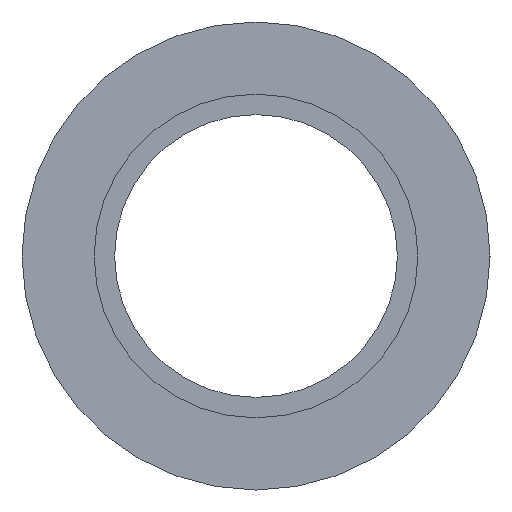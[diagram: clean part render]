
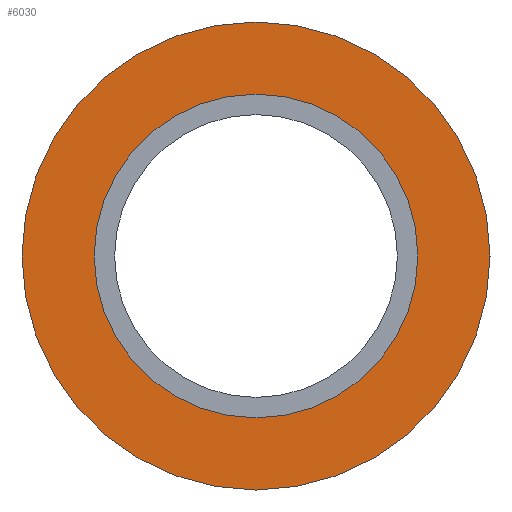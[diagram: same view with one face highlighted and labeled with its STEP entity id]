
A CAD part, left-side view. The second image highlights one B-rep face of the part: STEP entity #6030.
In plain terms, the highlighted planar face has unit normal (-1, 0, 0).
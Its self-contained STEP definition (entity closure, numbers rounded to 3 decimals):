
#5550=CARTESIAN_POINT('',(35.068,57.857,0.));
#5560=VERTEX_POINT('',#5550);
#5590=CARTESIAN_POINT('',(35.068,46.757,0.));
#5600=DIRECTION('',(-1.,0.,0.));
#5610=DIRECTION('',(0.,-1.,0.));
#5620=AXIS2_PLACEMENT_3D('',#5590,#5600,#5610);
#5630=CIRCLE('',#5620,11.1);
#5640=CARTESIAN_POINT('',(35.068,35.657,0.));
#5650=VERTEX_POINT('',#5640);
#5660=EDGE_CURVE('',#5650,#5560,#5630,.T.);
#5780=CARTESIAN_POINT('',(35.068,32.257,0.));
#5790=DIRECTION('',(-1.,0.,0.));
#5800=DIRECTION('',(0.,-1.,0.));
#5810=AXIS2_PLACEMENT_3D('',#5780,#5790,#5800);
#5820=PLANE('',#5810);
#5830=ORIENTED_EDGE('',*,*,#5660,.F.);
#5840=EDGE_CURVE('',#5560,#5650,#5630,.T.);
#5850=ORIENTED_EDGE('',*,*,#5840,.F.);
#5860=EDGE_LOOP('',(#5850,#5830));
#5870=FACE_BOUND('',#5860,.T.);
#5880=CARTESIAN_POINT('',(35.068,46.757,0.));
#5890=DIRECTION('',(-1.,0.,0.));
#5900=DIRECTION('',(0.,-1.,0.));
#5910=AXIS2_PLACEMENT_3D('',#5880,#5890,#5900);
#5920=CIRCLE('',#5910,16.05);
#5930=CARTESIAN_POINT('',(35.068,30.707,0.));
#5940=VERTEX_POINT('',#5930);
#5950=CARTESIAN_POINT('',(35.068,62.807,0.));
#5960=VERTEX_POINT('',#5950);
#5970=EDGE_CURVE('',#5940,#5960,#5920,.T.);
#5980=ORIENTED_EDGE('',*,*,#5970,.T.);
#5990=EDGE_CURVE('',#5960,#5940,#5920,.T.);
#6000=ORIENTED_EDGE('',*,*,#5990,.T.);
#6010=EDGE_LOOP('',(#6000,#5980));
#6020=FACE_OUTER_BOUND('',#6010,.T.);
#6030=ADVANCED_FACE('',(#5870,#6020),#5820,.T.);
